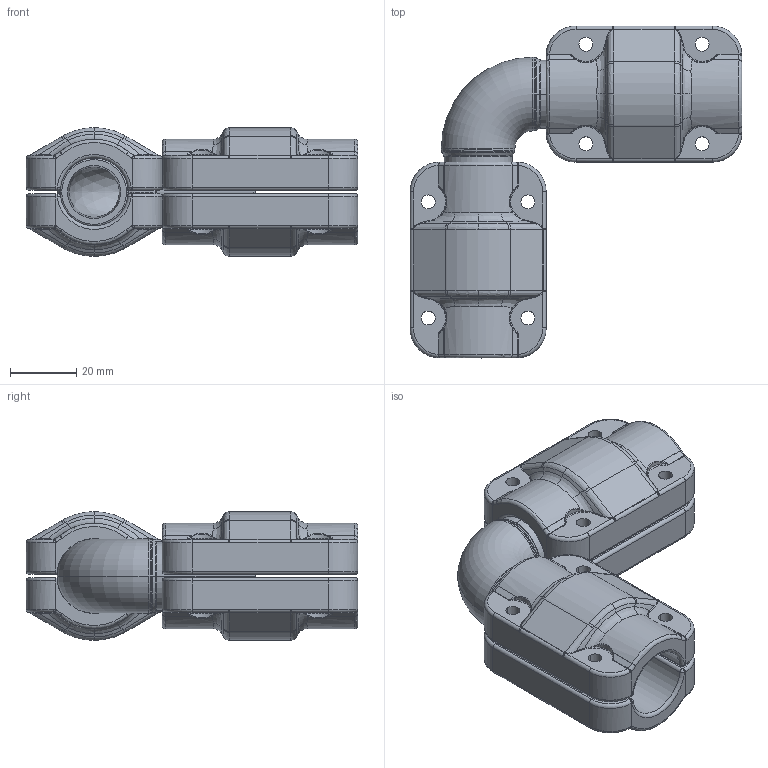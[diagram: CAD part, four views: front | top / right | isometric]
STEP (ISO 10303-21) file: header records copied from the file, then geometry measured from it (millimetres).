
FILE_DESCRIPTION((''),'2;1');
FILE_NAME('2015100399_ASM_13_ASM','2017-05-15T',('Administrator'),(''),'PRO/ENGINEER BY PARAMETRIC TECHNOLOGY CORPORATION, 2009360','PRO/ENGINEER BY PARAMETRIC TECHNOLOGY CORPORATION, 2009360','');
FILE_SCHEMA(('AUTOMOTIVE_DESIGN_CC2 { 1 2 10303 214 -1 1 5 2 }'));
Length unit declared in the file: millimetre
Products named in the file (5): 2015100300_13; 201510020000_38_4; 201510020001_10_6; 2015100200_ASM_7_ASM; 2015100399_ASM_13_ASM
Assembly tree (5 placements, depth 3):
  2015100399_ASM_13_ASM
    2015100300_13
    2015100200_ASM_7_ASM  x2
      201510020000_38_4
      201510020001_10_6
Bounding box: 100 x 100 x 38.8 mm (x, y, z)
Volume: 97561.2 mm3; surface area: 46449.1 mm2
Topology: 5 solids, 17 shells, 767 faces, 1863 edges, 1116 vertices
Faces by surface type: bspline 273, cylinder 230, torus 138, plane 78, cone 32, sphere 16
Entity records: 20388 total; most frequent: CARTESIAN_POINT 8967, ORIENTED_EDGE 1958, DIRECTION 1528, EDGE_CURVE 979, AXIS2_PLACEMENT_3D 667, VERTEX_POINT 594, PRESENTATION_STYLE_ASSIGNMENT 474, STYLED_ITEM 474
